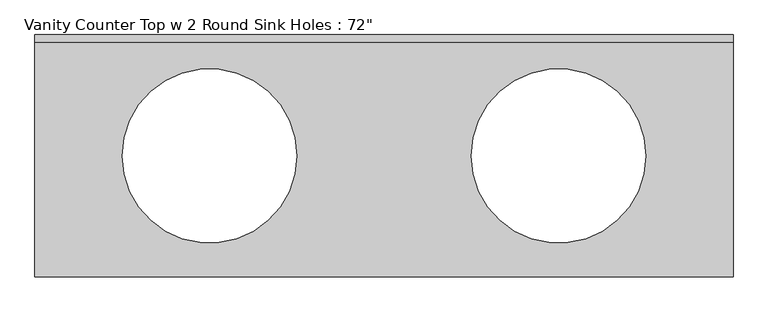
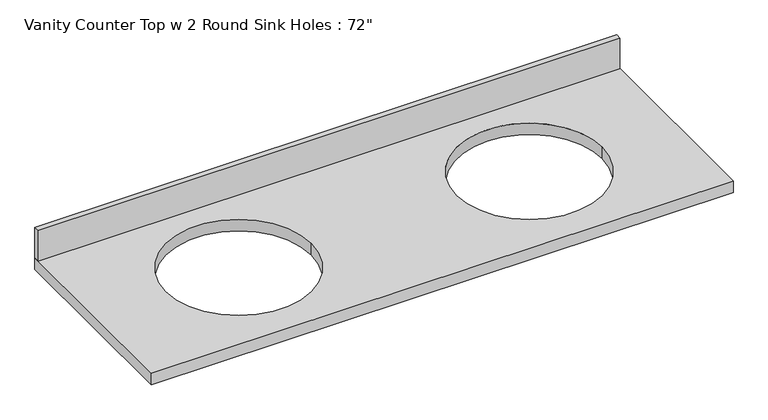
"""IFC4 building model written with IfcOpenShell, lengths in millimetres: furniture geometry."""

from ifc_helpers import new_model, si_unit, point, frame, frame_2d, origin, place, context, project, spatial, polyline, circle_curve, trimmed, segment, composite_curve, outline, extrude, source, transform, mapped, element, save


def furniture_25342f59(model_context):
    return source(origin(), model_context, "Body", "SweptSolid", [
        extrude(outline(polyline([(501.3377049, 0.0), (501.3377049, -635.0), (-1327.4622951, -635.0), (-1327.4622951, 0.0), (501.3377049, 0.0)]), holes=[composite_curve([segment(trimmed(circle_curve(frame_2d((-870.2622951, -317.5)), 228.6), [point((-1098.8622951, -317.5))], [point((-641.6622951, -317.5))], True, "CARTESIAN"), True, "CONTINUOUS"), segment(trimmed(circle_curve(frame_2d((-870.2622951, -317.5)), 228.6), [point((-641.6622951, -317.5))], [point((-1098.8622951, -317.5))], True, "CARTESIAN"), True, "CONTINUOUS")], self_intersect=False), composite_curve([segment(trimmed(circle_curve(frame_2d((44.1377049, -317.5)), 228.6), [point((-184.4622951, -317.5))], [point((272.7377049, -317.5))], True, "CARTESIAN"), True, "CONTINUOUS"), segment(trimmed(circle_curve(frame_2d((44.1377049, -317.5)), 228.6), [point((272.7377049, -317.5))], [point((-184.4622951, -317.5))], True, "CARTESIAN"), True, "CONTINUOUS")], self_intersect=False)]), frame((0.0, 0.0, 749.3), z_axis=(0.0, 0.0, 1.0), x_axis=(1.0, 0.0, 0.0)), (0.0, 0.0, 1.0), 38.1),
        extrude(outline(polyline([(-1327.4622951, 0.0), (501.3377049, 0.0), (501.3377049, -19.05), (-1327.4622951, -19.05), (-1327.4622951, 0.0)])), frame((0.0, 0.0, 787.4), z_axis=(0.0, 0.0, 1.0), x_axis=(1.0, 0.0, 0.0)), (0.0, 0.0, 1.0), 101.6),
    ])


if __name__ == "__main__":
    model = new_model("IFC4")
    model_context = context("Model", 3, world=origin())
    ifc_project = project(units=[si_unit("LENGTHUNIT", "METRE", prefix="MILLI")], contexts=[model_context])
    site = spatial("IfcSite", under=ifc_project)
    building = spatial("IfcBuilding", under=site)
    placement = place(None, origin())
    furniture_shape = furniture_25342f59(model_context)
    element("IfcFurniture", 1, ObjectType="Vanity Counter Top w 2 Round Sink Holes : 72\"", at=placement, inside=building, context=model_context, shape_type="MappedRepresentation", body=[
        mapped(furniture_shape, transform((0.0, 0.0, 0.0), x_axis=(1.0, 0.0, 0.0), y_axis=(0.0, 1.0, 0.0), z_axis=(0.0, 0.0, 1.0))),
    ])
    save(model, "model.ifc")
